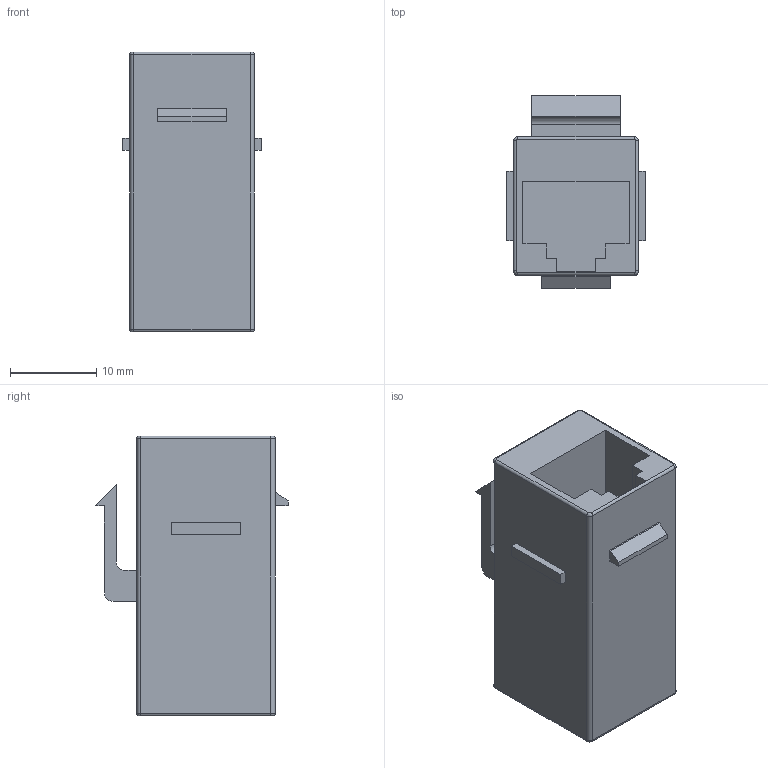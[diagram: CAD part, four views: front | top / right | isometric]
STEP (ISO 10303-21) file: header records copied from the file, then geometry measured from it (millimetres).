
FILE_DESCRIPTION(('FreeCAD Model'),'2;1');
FILE_NAME('Open CASCADE Shape Model','2026-04-22T10:58:46',(''),(''), 'Open CASCADE STEP processor 7.8','FreeCAD','Unknown');
FILE_SCHEMA(('AUTOMOTIVE_DESIGN { 1 0 10303 214 1 1 1 1 }'));
Length unit declared in the file: millimetre
Products named in the file (1): FA-396-8-C6-BK
Bounding box: 16.1 x 22.33 x 32.5 mm (x, y, z)
Volume: 5730.9 mm3; surface area: 3710 mm2
Topology: 1 solids, 1 shells, 79 faces, 197 edges, 126 vertices
Faces by surface type: plane 57, cylinder 14, revolution 8
Entity records: 2397 total; most frequent: CARTESIAN_POINT 459, ORIENTED_EDGE 394, DIRECTION 385, EDGE_CURVE 197, LINE 161, VECTOR 161, VERTEX_POINT 126, AXIS2_PLACEMENT_3D 108
